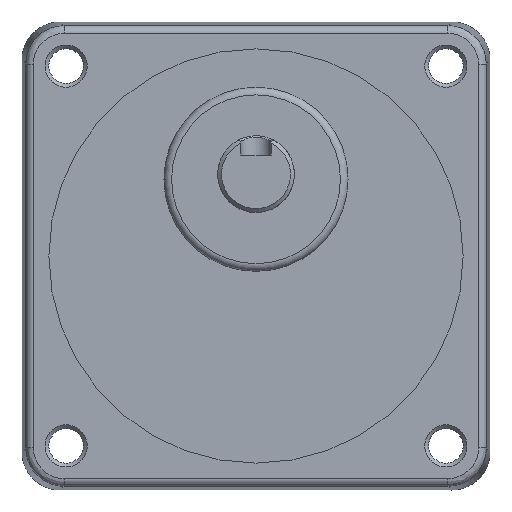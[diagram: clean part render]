
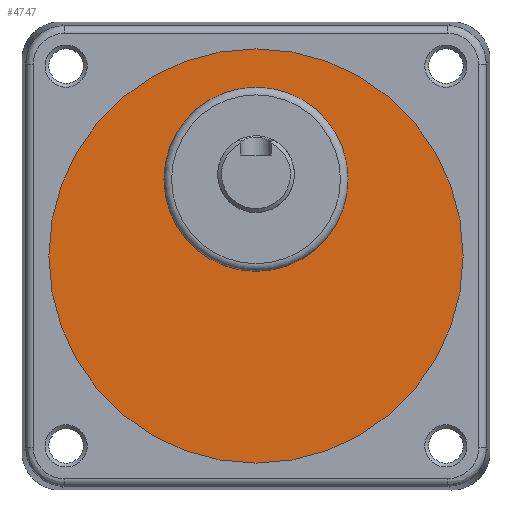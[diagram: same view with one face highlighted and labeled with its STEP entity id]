
A CAD part, front view. The second image highlights one B-rep face of the part: STEP entity #4747.
In plain terms, the highlighted planar face has unit normal (0, -1, 0).
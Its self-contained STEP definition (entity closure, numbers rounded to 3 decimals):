
#4108=CARTESIAN_POINT('',(12.,-31.5,10.));
#4109=VERTEX_POINT('',#4108);
#4110=CARTESIAN_POINT('',(0.,-31.5,10.0));
#4111=DIRECTION('',(0.0,1.0,0.0));
#4112=DIRECTION('',(-1.0,0.0,0.0));
#4113=AXIS2_PLACEMENT_3D('',#4110,#4111,#4112);
#4114=CIRCLE('',#4113,12.);
#4115=EDGE_CURVE('',#4109,#4109,#4114,.T.);
#4721=CARTESIAN_POINT('',(27.0,-31.5,0.));
#4722=VERTEX_POINT('',#4721);
#4723=CARTESIAN_POINT('',(0.0,-31.5,0.0));
#4724=DIRECTION('',(0.0,-1.0,0.0));
#4725=DIRECTION('',(-1.0,0.0,0.0));
#4726=AXIS2_PLACEMENT_3D('',#4723,#4724,#4725);
#4727=CIRCLE('',#4726,27.0);
#4728=EDGE_CURVE('',#4722,#4722,#4727,.T.);
#4736=CARTESIAN_POINT('',(0.0,-31.5,0.0));
#4737=DIRECTION('',(0.0,1.0,0.0));
#4738=DIRECTION('',(0.0,0.0,1.0));
#4739=AXIS2_PLACEMENT_3D('',#4736,#4737,#4738);
#4740=PLANE('',#4739);
#4741=ORIENTED_EDGE('',*,*,#4728,.T.);
#4742=EDGE_LOOP('',(#4741));
#4743=FACE_OUTER_BOUND('',#4742,.T.);
#4744=ORIENTED_EDGE('',*,*,#4115,.T.);
#4745=EDGE_LOOP('',(#4744));
#4746=FACE_BOUND('',#4745,.T.);
#4747=ADVANCED_FACE('',(#4743,#4746),#4740,.F.);
